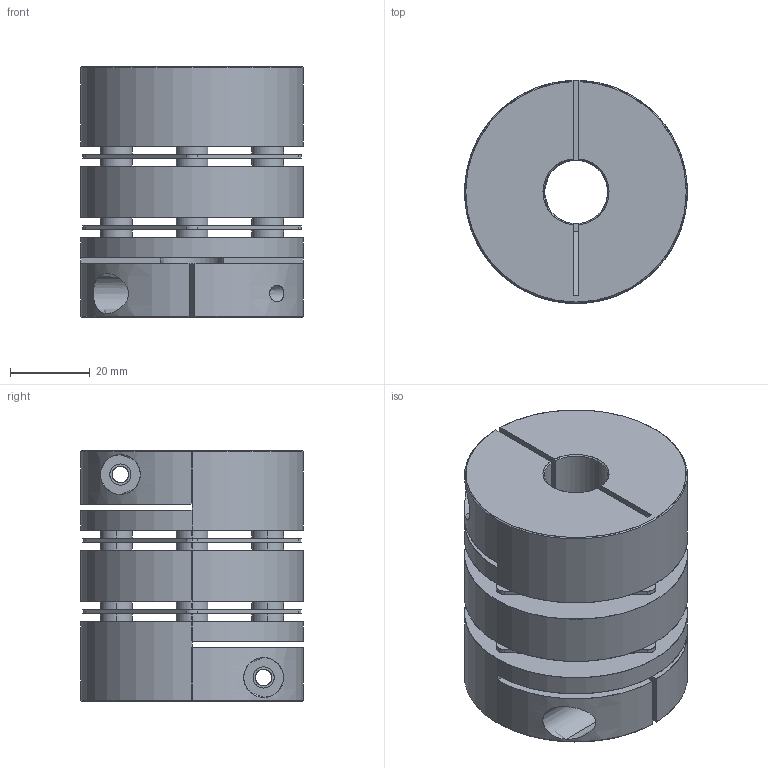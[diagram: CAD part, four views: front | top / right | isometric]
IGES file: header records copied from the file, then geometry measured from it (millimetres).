
Start section: SolidWorks IGES file using analytic representation for surfaces
Bounding box: 56 x 56 x 63 mm (x, y, z)
Surface area: 37768.6 mm2 (no closed solid volume)
Topology: 0 solids, 0 shells, 132 faces, 3068 edges, 3068 vertices
Faces by surface type: revolution 90, bspline 42
